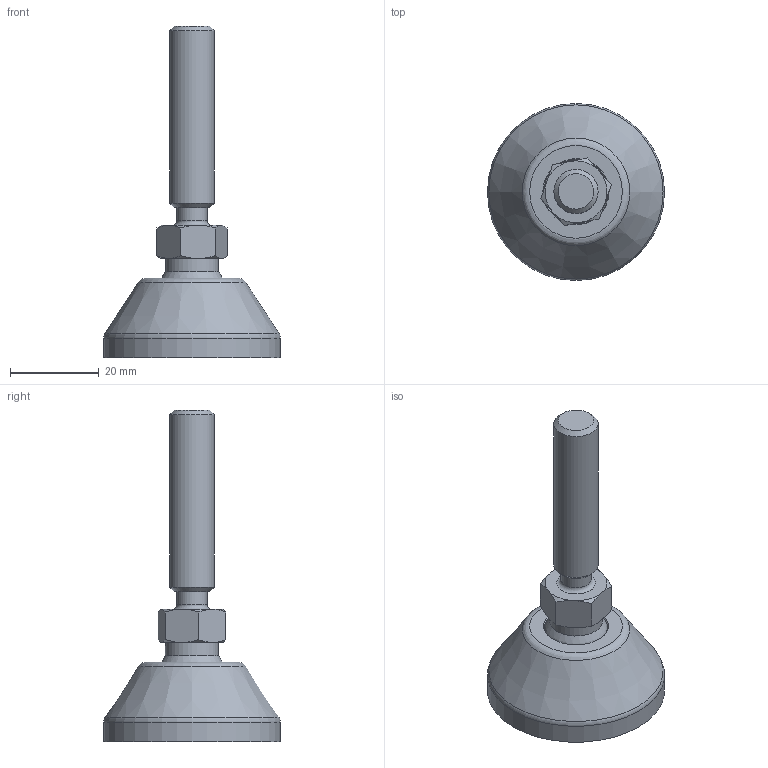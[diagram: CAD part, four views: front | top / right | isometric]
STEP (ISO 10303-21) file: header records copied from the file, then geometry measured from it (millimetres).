
FILE_DESCRIPTION(('STEP AP203'), '1');
FILE_NAME('栖闉罻', '', ('UNSPECIFIED'), ('UNSPECIFIED'), 'C3D Converter', 'C3D Toolkit', '');
FILE_SCHEMA(('CONFIG_CONTROL_DESIGN'));
Length unit declared in the file: millimetre
Products named in the file (3): A00015.1040; A00020.110045
Assembly tree (2 placements, depth 2):
  (unnamed)
    A00015.1040
    A00020.110045
Bounding box: 40 x 40 x 74.98 mm (x, y, z)
Volume: 16159.3 mm3; surface area: 8789.9 mm2
Topology: 2 solids, 2 shells, 142 faces, 387 edges, 259 vertices
Faces by surface type: plane 77, cylinder 25, torus 21, cone 17, sphere 2
Full cylindrical faces by diameter (mm): 6.8 x1, 10 x1, 12 x1, 14.3 x1, 15 x2, 15.5 x1, 32 x1, 40 x1
Entity records: 7774 total; most frequent: CARTESIAN_POINT 2999, DIRECTION 736, ORIENTED_EDGE 724, EDGE_CURVE 362, AXIS2_PLACEMENT_3D 301, VERTEX_POINT 257, EDGE_LOOP 173, FACE_BOUND 160
